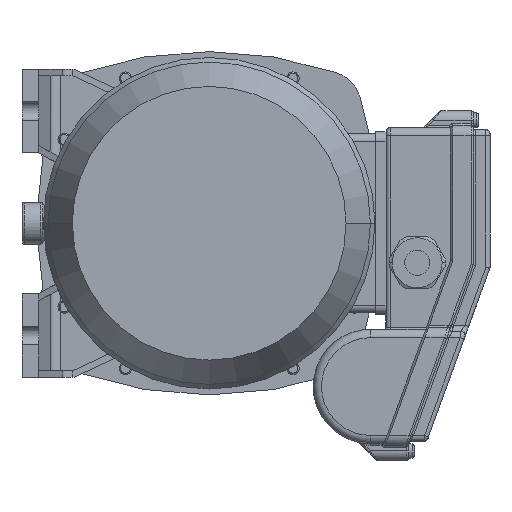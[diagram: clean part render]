
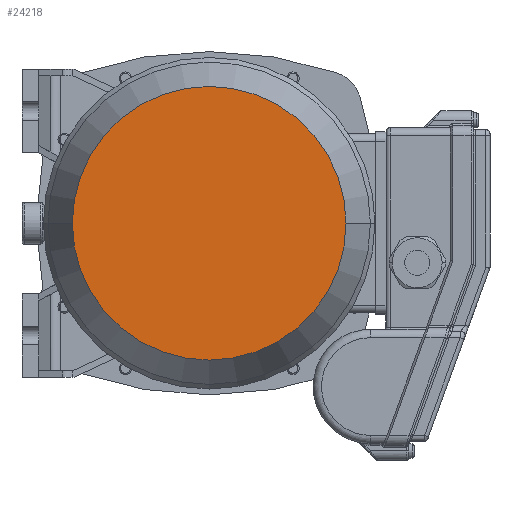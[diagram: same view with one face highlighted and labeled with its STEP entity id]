
A CAD part, front view. The second image highlights one B-rep face of the part: STEP entity #24218.
In plain terms, the highlighted planar face has unit normal (0, -1, 0) as drawn and (1, 0, 0) by its records, which use the part's own axes.
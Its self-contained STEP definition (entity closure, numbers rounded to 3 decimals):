
#18311=CARTESIAN_POINT('',(203.,0.,0.));
#18312=DIRECTION('',(-1.,0.,0.));
#18313=DIRECTION('',(0.,1.,0.));
#18314=AXIS2_PLACEMENT_3D('',#18311,#18312,#18313);
#18319=CARTESIAN_POINT('',(203.,0.,0.));
#18320=DIRECTION('',(1.,0.,0.));
#18321=DIRECTION('',(0.,1.,0.));
#18322=AXIS2_PLACEMENT_3D('',#18319,#18320,#18321);
#19627=CARTESIAN_POINT('',(203.,65.794,0.));
#19629=VERTEX_POINT('',#19627);
#19637=CARTESIAN_POINT('',(203.,-65.794,0.));
#19639=VERTEX_POINT('',#19637);
#24209=CARTESIAN_POINT('',(203.,0.,0.));
#24210=DIRECTION('',(1.,0.,0.));
#24211=DIRECTION('',(0.,-1.,0.));
#24212=AXIS2_PLACEMENT_3D('',#24209,#24210,#24211);
#24213=PLANE('',#24212);
#24214=ORIENTED_EDGE('',*,*,#24191,.T.);
#24215=ORIENTED_EDGE('',*,*,#24202,.F.);
#24216=EDGE_LOOP('',(#24214,#24215));
#24217=FACE_OUTER_BOUND('',#24216,.F.);
#18315=CIRCLE('',#18314,65.794);
#18323=CIRCLE('',#18322,65.794);
#24191=EDGE_CURVE('',#19629,#19639,#18315,.T.);
#24202=EDGE_CURVE('',#19629,#19639,#18323,.T.);
#24218=ADVANCED_FACE('',(#24217),#24213,.T.);
